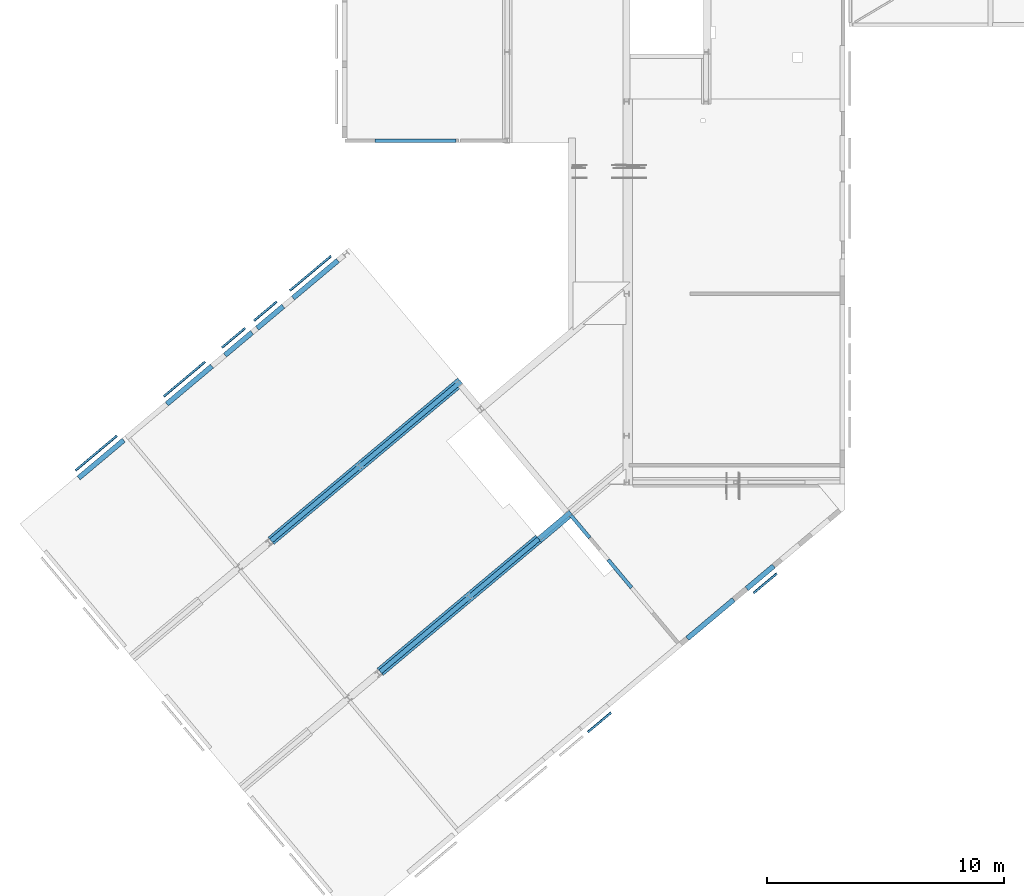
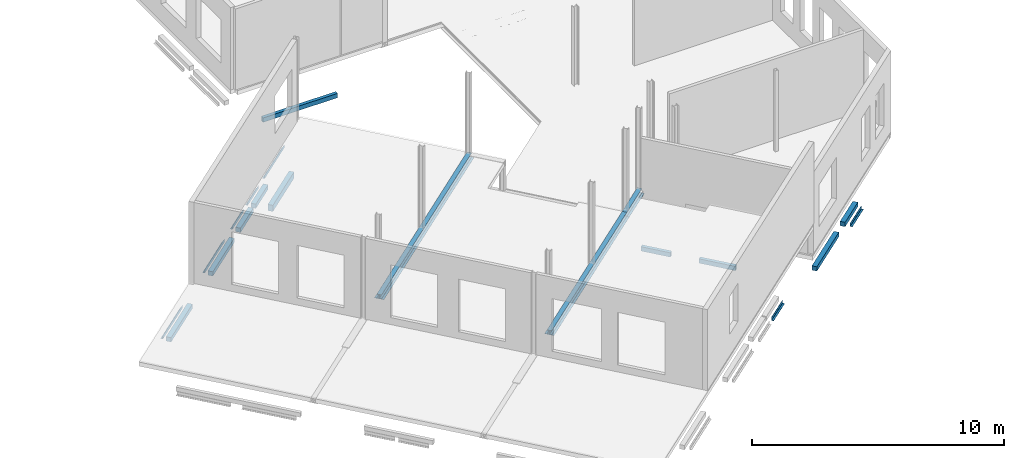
# One storey, part 5 of 16: 21 beams.
"""IFC2X3 building model written with IfcOpenShell, lengths in millimetres."""

from ifc_helpers import new_model, entity, si_unit, converted_unit, derived_unit, direction, frame, frame_2d, origin, origin_2d_with_axis, place, context, subcontext, project, spatial, polyline, circle_curve, parameter, trimmed, segment, composite_curve, rectangle, i_section, outline, extrude, source, transform, mapped, material, material_list, type_object, type_shapes, element, save


model = new_model("IFC2X3")

# Units and contexts
model_context = context("Model", 3, precision=0.01, world=origin(), true_north=direction((6.12303176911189e-17, 1.0)))
body_context = subcontext(model_context, "Body", "Model", "MODEL_VIEW")
ifc_project = project(units=[si_unit("LENGTHUNIT", "METRE", prefix="MILLI"), si_unit("AREAUNIT", "SQUARE_METRE"), si_unit("VOLUMEUNIT", "CUBIC_METRE"), converted_unit("PLANEANGLEUNIT", "DEGREE", entity("IfcRatioMeasure", 0.0174532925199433), si_unit("PLANEANGLEUNIT", "RADIAN"), dimensions=[0, 0, 0, 0, 0, 0, 0]), si_unit("MASSUNIT", "GRAM", prefix="KILO"), derived_unit("MASSDENSITYUNIT", [(si_unit("MASSUNIT", "GRAM", prefix="KILO"), 1), (si_unit("LENGTHUNIT", "METRE"), -3)]), derived_unit("MOMENTOFINERTIAUNIT", [(si_unit("LENGTHUNIT", "METRE"), 4)]), si_unit("TIMEUNIT", "SECOND"), si_unit("FREQUENCYUNIT", "HERTZ"), si_unit("THERMODYNAMICTEMPERATUREUNIT", "DEGREE_CELSIUS"), derived_unit("THERMALTRANSMITTANCEUNIT", [(si_unit("MASSUNIT", "GRAM", prefix="KILO"), 1), (si_unit("THERMODYNAMICTEMPERATUREUNIT", "KELVIN"), -1), (si_unit("TIMEUNIT", "SECOND"), -3)]), derived_unit("VOLUMETRICFLOWRATEUNIT", [(si_unit("LENGTHUNIT", "METRE"), 3), (si_unit("TIMEUNIT", "SECOND"), -1)]), si_unit("ELECTRICCURRENTUNIT", "AMPERE"), si_unit("ELECTRICVOLTAGEUNIT", "VOLT"), si_unit("POWERUNIT", "WATT"), si_unit("FORCEUNIT", "NEWTON", prefix="KILO"), si_unit("ILLUMINANCEUNIT", "LUX"), si_unit("LUMINOUSFLUXUNIT", "LUMEN"), si_unit("LUMINOUSINTENSITYUNIT", "CANDELA"), derived_unit("USERDEFINED", [(si_unit("MASSUNIT", "GRAM", prefix="KILO"), -1), (si_unit("LENGTHUNIT", "METRE"), -2), (si_unit("TIMEUNIT", "SECOND"), 3), (si_unit("LUMINOUSFLUXUNIT", "LUMEN"), 1)]), derived_unit("LINEARVELOCITYUNIT", [(si_unit("LENGTHUNIT", "METRE"), 1), (si_unit("TIMEUNIT", "SECOND"), -1)]), si_unit("PRESSUREUNIT", "PASCAL"), derived_unit("USERDEFINED", [(si_unit("LENGTHUNIT", "METRE"), -2), (si_unit("MASSUNIT", "GRAM", prefix="KILO"), 1), (si_unit("TIMEUNIT", "SECOND"), -2)]), derived_unit("LINEARFORCEUNIT", [(si_unit("MASSUNIT", "GRAM", prefix="KILO"), 1), (si_unit("LENGTHUNIT", "METRE"), 1), (si_unit("TIMEUNIT", "SECOND"), -2), (si_unit("LENGTHUNIT", "METRE"), -1)]), derived_unit("PLANARFORCEUNIT", [(si_unit("MASSUNIT", "GRAM", prefix="KILO"), 1), (si_unit("LENGTHUNIT", "METRE"), 1), (si_unit("TIMEUNIT", "SECOND"), -2), (si_unit("LENGTHUNIT", "METRE"), -2)])], contexts=[model_context])

# Site, building, storey
site_placement = place(None, origin())
site = spatial("IfcSite", under=ifc_project, at=site_placement, Name="Default", CompositionType="ELEMENT")
building_placement = place(site_placement, origin())
building = spatial("IfcBuilding", under=site, at=building_placement, CompositionType="ELEMENT")
storey_placement = place(building_placement, frame((0.0, 0.0, 3500.0)))
storey = spatial("IfcBuildingStorey", under=building, at=storey_placement, Name="01 eerste verdieping", CompositionType="ELEMENT", Elevation=3500.00000000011)

# Beams
ifc_material_1 = material(Name="00_Staal_generiek")
beam_type_1 = type_object("IfcBeamType", Name="BERSnl_28_SF_LIB_balk hoeklijn ongelijk_gen_ISR:balk gen l150x100x10", PredefinedType="BEAM")
beam_1_placement = place(storey_placement, frame((24062.2480560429, -8685.42244979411, 890.0), z_axis=(0.0, 0.0, 1.0), x_axis=(0.766044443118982, 0.642787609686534, 0.0)))
element("IfcBeam", 1, at=beam_1_placement, inside=storey, type_object=beam_type_1, material=ifc_material_1, Name="BERSnl_28_SF_LIB_balk hoeklijn ongelijk_gen_ISR:balk gen l150x100x10", ObjectType="BERSnl_28_SF_LIB_balk hoeklijn ongelijk_gen_ISR:balk gen l150x100x10", context=body_context, shape_type="SweptSolid", body=[
    extrude(outline(composite_curve([segment(polyline([(50.4444444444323, -62.2222222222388), (54.4444444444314, -62.2222222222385)]), True, "CONTINUOUS"), segment(polyline([(54.4444444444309, -62.2222222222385), (54.4444444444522, 37.7777777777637)]), True, "CONTINUOUS"), segment(polyline([(54.4444444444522, 37.7777777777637), (-95.5555555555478, 37.7777777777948)]), True, "CONTINUOUS"), segment(polyline([(-95.5555555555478, 37.7777777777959), (-95.5555555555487, 33.7777777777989)]), True, "CONTINUOUS"), segment(trimmed(circle_curve(frame_2d((-89.5555555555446, 33.7777777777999), x_axis=(-1.0, 0.0)), 6.00000000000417), [parameter(0.0)], [parameter(89.9999999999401)], True, "PARAMETER"), True, "CONTINUOUS"), segment(polyline([(-89.5555555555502, 27.7777777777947), (32.4444444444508, 27.7777777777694)]), True, "CONTINUOUS"), segment(trimmed(circle_curve(frame_2d((32.4444444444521, 15.7777777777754), x_axis=(0.0, 1.0)), 11.9999999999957), [parameter(269.99999999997)], [parameter(0.0)], True, "PARAMETER"), False, "CONTINUOUS"), segment(polyline([(44.4444444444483, 15.7777777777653), (44.4444444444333, -56.2222222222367)]), True, "CONTINUOUS"), segment(trimmed(circle_curve(frame_2d((50.4444444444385, -56.2222222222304), x_axis=(-1.0, 0.0)), 6.00000000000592), [parameter(0.0)], [parameter(89.9999999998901)], True, "PARAMETER"), True, "CONTINUOUS")], self_intersect=False)), frame((-138.069294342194, -14.3777777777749, -95.5555555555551), z_axis=(1.0, 0.0, 0.0), x_axis=(0.0, 0.0, -1.0)), (0.0, 0.0, 1.0), 1286.0),
])
beam_2_placement = place(storey_placement, frame((2592.23735380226, 2424.27051120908, 890.0), z_axis=(0.0, 0.0, 1.0), x_axis=(0.766044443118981, 0.642787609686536, 0.0)))
element("IfcBeam", 2, at=beam_2_placement, inside=storey, type_object=beam_type_1, material=ifc_material_1, Name="BERSnl_28_SF_LIB_balk hoeklijn ongelijk_gen_ISR:balk gen l150x100x10", ObjectType="BERSnl_28_SF_LIB_balk hoeklijn ongelijk_gen_ISR:balk gen l150x100x10", context=body_context, shape_type="SweptSolid", body=[
    extrude(outline(composite_curve([segment(polyline([(-95.5555555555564, -37.7777777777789), (54.4444444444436, -37.777777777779)]), True, "CONTINUOUS"), segment(polyline([(54.4444444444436, -37.777777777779), (54.4444444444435, 62.2222222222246)]), True, "CONTINUOUS"), segment(polyline([(54.444444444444, 62.2222222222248), (50.4444444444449, 62.2222222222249)]), True, "CONTINUOUS"), segment(trimmed(circle_curve(frame_2d((50.4444444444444, 56.2222222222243), x_axis=(0.0, 1.0)), 6.00000000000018), [parameter(0.0)], [parameter(90.0000000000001)], True, "PARAMETER"), True, "CONTINUOUS"), segment(polyline([(44.4444444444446, 56.2222222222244), (44.4444444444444, -15.777777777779)]), True, "CONTINUOUS"), segment(trimmed(circle_curve(frame_2d((32.4444444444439, -15.7777777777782), x_axis=(1.0, 0.0)), 12.0000000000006), [parameter(270.000000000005)], [parameter(0.0)], True, "PARAMETER"), False, "CONTINUOUS"), segment(polyline([(32.4444444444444, -27.7777777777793), (-89.5555555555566, -27.7777777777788)]), True, "CONTINUOUS"), segment(trimmed(circle_curve(frame_2d((-89.5555555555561, -33.7777777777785), x_axis=(0.0, 1.0)), 5.99999999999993), [parameter(0.0)], [parameter(90.0000000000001)], True, "PARAMETER"), True, "CONTINUOUS"), segment(polyline([(-95.5555555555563, -33.7777777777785), (-95.5555555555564, -37.7777777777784)]), True, "CONTINUOUS")], self_intersect=False)), frame((-302.060067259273, 14.3777777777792, -95.5555555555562), z_axis=(1.0, 0.0, 0.0), x_axis=(0.0, 0.0, -1.0)), (0.0, 0.0, 1.0), 2283.72116295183),
])
beam_3_placement = place(storey_placement, frame((6367.3043694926, 5591.92785174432, 890.0), z_axis=(0.0, 0.0, 1.0), x_axis=(0.766044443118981, 0.642787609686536, 0.0)))
element("IfcBeam", 3, at=beam_3_placement, inside=storey, type_object=beam_type_1, material=ifc_material_1, Name="BERSnl_28_SF_LIB_balk hoeklijn ongelijk_gen_ISR:balk gen l150x100x10", ObjectType="BERSnl_28_SF_LIB_balk hoeklijn ongelijk_gen_ISR:balk gen l150x100x10", context=body_context, shape_type="SweptSolid", body=[
    extrude(outline(composite_curve([segment(polyline([(-95.5555555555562, -37.7777777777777), (54.4444444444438, -37.7777777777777)]), True, "CONTINUOUS"), segment(polyline([(54.4444444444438, -37.7777777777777), (54.4444444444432, 62.222222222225)]), True, "CONTINUOUS"), segment(polyline([(54.4444444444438, 62.2222222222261), (50.4444444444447, 62.222222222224)]), True, "CONTINUOUS"), segment(trimmed(circle_curve(frame_2d((50.4444444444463, 56.2222222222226), x_axis=(0.0, 1.0)), 6.00000000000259), [parameter(0.0)], [parameter(89.9999999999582)], True, "PARAMETER"), True, "CONTINUOUS"), segment(polyline([(44.4444444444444, 56.2222222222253), (44.4444444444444, -15.7777777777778)]), True, "CONTINUOUS"), segment(trimmed(circle_curve(frame_2d((32.444444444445, -15.7777777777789), x_axis=(1.0, 0.0)), 11.9999999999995), [parameter(269.999999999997)], [parameter(0.0)], True, "PARAMETER"), False, "CONTINUOUS"), segment(polyline([(32.4444444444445, -27.7777777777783), (-89.5555555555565, -27.7777777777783)]), True, "CONTINUOUS"), segment(trimmed(circle_curve(frame_2d((-89.5555555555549, -33.7777777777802), x_axis=(0.0, 1.0)), 6.00000000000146), [parameter(0.0)], [parameter(89.9999999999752)], True, "PARAMETER"), True, "CONTINUOUS"), segment(polyline([(-95.5555555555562, -33.7777777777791), (-95.5555555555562, -37.7777777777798)]), True, "CONTINUOUS")], self_intersect=False)), frame((-370.06006725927, 14.3777777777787, -95.5555555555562), z_axis=(1.0, 0.0, 0.0), x_axis=(0.0, 0.0, -1.0)), (0.0, 0.0, 1.0), 2286.0),
])
beam_4_placement = place(storey_placement, frame((8905.04684868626, 7721.34663005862, 890.0), z_axis=(0.0, 0.0, 1.0), x_axis=(0.766044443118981, 0.642787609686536, 0.0)))
element("IfcBeam", 4, at=beam_4_placement, inside=storey, type_object=beam_type_1, material=ifc_material_1, Name="BERSnl_28_SF_LIB_balk hoeklijn ongelijk_gen_ISR:balk gen l150x100x10", ObjectType="BERSnl_28_SF_LIB_balk hoeklijn ongelijk_gen_ISR:balk gen l150x100x10", context=body_context, shape_type="SweptSolid", body=[
    extrude(outline(composite_curve([segment(polyline([(-95.5555555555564, -37.7777777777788), (54.4444444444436, -37.7777777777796)]), True, "CONTINUOUS"), segment(polyline([(54.4444444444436, -37.7777777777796), (54.4444444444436, 62.2222222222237)]), True, "CONTINUOUS"), segment(polyline([(54.4444444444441, 62.2222222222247), (50.444444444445, 62.2222222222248)]), True, "CONTINUOUS"), segment(trimmed(circle_curve(frame_2d((50.4444444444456, 56.2222222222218), x_axis=(0.0, 1.0)), 6.00000000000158), [parameter(0.0)], [parameter(89.9999999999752)], True, "PARAMETER"), True, "CONTINUOUS"), segment(polyline([(44.4444444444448, 56.222222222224), (44.4444444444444, -15.7777777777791)]), True, "CONTINUOUS"), segment(trimmed(circle_curve(frame_2d((32.4444444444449, -15.7777777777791), x_axis=(1.0, 0.0)), 11.9999999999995), [parameter(269.999999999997)], [parameter(0.0)], True, "PARAMETER"), False, "CONTINUOUS"), segment(polyline([(32.4444444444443, -27.7777777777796), (-89.5555555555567, -27.77777777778)]), True, "CONTINUOUS"), segment(trimmed(circle_curve(frame_2d((-89.5555555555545, -33.7777777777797), x_axis=(0.0, 1.0)), 6.00000000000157), [parameter(0.0)], [parameter(89.99999999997)], True, "PARAMETER"), True, "CONTINUOUS"), segment(polyline([(-95.5555555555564, -33.7777777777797), (-95.5555555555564, -37.7777777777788)]), True, "CONTINUOUS")], self_intersect=False)), frame((-472.84759804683, 14.3777777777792, -95.5555555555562), z_axis=(1.0, 0.0, 0.0), x_axis=(0.0, 0.0, -1.0)), (0.0, 0.0, 1.0), 1285.42920471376),
])
beam_5_placement = place(storey_placement, frame((10253.2850685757, 8852.65282310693, 890.0), z_axis=(0.0, 0.0, 1.0), x_axis=(0.766044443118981, 0.642787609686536, 0.0)))
element("IfcBeam", 5, at=beam_5_placement, inside=storey, type_object=beam_type_1, material=ifc_material_1, Name="BERSnl_28_SF_LIB_balk hoeklijn ongelijk_gen_ISR:balk gen l150x100x10", ObjectType="BERSnl_28_SF_LIB_balk hoeklijn ongelijk_gen_ISR:balk gen l150x100x10", context=body_context, shape_type="SweptSolid", body=[
    extrude(outline(composite_curve([segment(polyline([(-95.5555555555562, -37.7777777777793), (54.4444444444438, -37.7777777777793)]), True, "CONTINUOUS"), segment(polyline([(54.4444444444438, -37.7777777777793), (54.4444444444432, 62.222222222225)]), True, "CONTINUOUS"), segment(polyline([(54.4444444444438, 62.222222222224), (50.4444444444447, 62.222222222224)]), True, "CONTINUOUS"), segment(trimmed(circle_curve(frame_2d((50.4444444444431, 56.2222222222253), x_axis=(0.0, 1.0)), 5.99999999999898), [parameter(0.0)], [parameter(90.0000000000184)], True, "PARAMETER"), True, "CONTINUOUS"), segment(polyline([(44.4444444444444, 56.2222222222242), (44.4444444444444, -15.7777777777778)]), True, "CONTINUOUS"), segment(trimmed(circle_curve(frame_2d((32.4444444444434, -15.7777777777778), x_axis=(1.0, 0.0)), 12.0000000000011), [parameter(270.000000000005)], [parameter(0.0)], True, "PARAMETER"), False, "CONTINUOUS"), segment(polyline([(32.4444444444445, -27.7777777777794), (-89.5555555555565, -27.7777777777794)]), True, "CONTINUOUS"), segment(trimmed(circle_curve(frame_2d((-89.5555555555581, -33.7777777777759), x_axis=(0.0, 1.0)), 5.99999999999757), [parameter(0.0)], [parameter(90.000000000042)], True, "PARAMETER"), True, "CONTINUOUS"), segment(polyline([(-95.5555555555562, -33.777777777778), (-95.5555555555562, -37.7777777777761)]), True, "CONTINUOUS")], self_intersect=False)), frame((-462.847598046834, 14.3777777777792, -95.5555555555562), z_axis=(1.0, 0.0, 0.0), x_axis=(0.0, 0.0, -1.0)), (0.0, 0.0, 1.0), 1252.70376697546),
])
beam_6_placement = place(storey_placement, frame((31503.6037765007, -2441.38360929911, -560.0), z_axis=(0.0, 0.0, 1.0), x_axis=(0.766044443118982, 0.642787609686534, 0.0)))
element("IfcBeam", 6, at=beam_6_placement, inside=storey, type_object=beam_type_1, material=ifc_material_1, Name="BERSnl_28_SF_LIB_balk hoeklijn ongelijk_gen_ISR:balk gen l150x100x10", ObjectType="BERSnl_28_SF_LIB_balk hoeklijn ongelijk_gen_ISR:balk gen l150x100x10", context=body_context, shape_type="SweptSolid", body=[
    extrude(outline(composite_curve([segment(polyline([(50.4444444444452, -62.2222222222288), (54.4444444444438, -62.2222222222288)]), True, "CONTINUOUS"), segment(polyline([(54.4444444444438, -62.2222222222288), (54.4444444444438, 37.7777777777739)]), True, "CONTINUOUS"), segment(polyline([(54.4444444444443, 37.7777777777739), (-95.5555555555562, 37.7777777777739)]), True, "CONTINUOUS"), segment(polyline([(-95.5555555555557, 37.7777777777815), (-95.5555555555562, 33.7777777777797)]), True, "CONTINUOUS"), segment(trimmed(circle_curve(frame_2d((-89.5555555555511, 33.7777777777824), x_axis=(-1.0, 0.0)), 6.00000000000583), [parameter(0.0)], [parameter(89.9999999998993)], True, "PARAMETER"), True, "CONTINUOUS"), segment(polyline([(-89.555555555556, 27.7777777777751), (32.4444444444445, 27.7777777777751)]), True, "CONTINUOUS"), segment(trimmed(circle_curve(frame_2d((32.4444444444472, 15.7777777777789), x_axis=(0.0, 1.0)), 11.9999999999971), [parameter(269.999999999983)], [parameter(0.0)], True, "PARAMETER"), False, "CONTINUOUS"), segment(polyline([(44.444444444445, 15.7777777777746), (44.4444444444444, -56.2222222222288)]), True, "CONTINUOUS"), segment(trimmed(circle_curve(frame_2d((50.4444444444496, -56.2222222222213), x_axis=(-1.0, 0.0)), 6.00000000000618), [parameter(0.0)], [parameter(89.9999999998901)], True, "PARAMETER"), True, "CONTINUOUS")], self_intersect=False)), frame((-714.869476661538, -14.377777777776, -95.5555555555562), z_axis=(1.0, 0.0, 0.0), x_axis=(0.0, 0.0, -1.0)), (0.0, 0.0, 1.0), 1286.00000000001),
])
beam_7_placement = place(storey_placement, frame((12030.5081766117, 10343.9200775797, 890.0), z_axis=(0.0, 0.0, 1.0), x_axis=(0.766044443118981, 0.642787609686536, 0.0)))
element("IfcBeam", 7, at=beam_7_placement, inside=storey, type_object=beam_type_1, material=ifc_material_1, Name="BERSnl_28_SF_LIB_balk hoeklijn ongelijk_gen_ISR:balk gen l150x100x10", ObjectType="BERSnl_28_SF_LIB_balk hoeklijn ongelijk_gen_ISR:balk gen l150x100x10", context=body_context, shape_type="SweptSolid", body=[
    extrude(outline(composite_curve([segment(polyline([(-95.5555555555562, -37.7777777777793), (54.4444444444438, -37.7777777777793)]), True, "CONTINUOUS"), segment(polyline([(54.4444444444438, -37.7777777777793), (54.4444444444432, 62.2222222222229)]), True, "CONTINUOUS"), segment(polyline([(54.4444444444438, 62.2222222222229), (50.4444444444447, 62.2222222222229)]), True, "CONTINUOUS"), segment(trimmed(circle_curve(frame_2d((50.4444444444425, 56.2222222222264), x_axis=(0.0, 1.0)), 5.99999999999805), [parameter(0.0)], [parameter(90.0000000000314)], True, "PARAMETER"), True, "CONTINUOUS"), segment(polyline([(44.4444444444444, 56.2222222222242), (44.4444444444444, -15.7777777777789)]), True, "CONTINUOUS"), segment(trimmed(circle_curve(frame_2d((32.4444444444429, -15.7777777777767), x_axis=(1.0, 0.0)), 12.000000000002), [parameter(270.000000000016)], [parameter(0.0)], True, "PARAMETER"), False, "CONTINUOUS"), segment(polyline([(32.4444444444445, -27.7777777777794), (-89.5555555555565, -27.7777777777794)]), True, "CONTINUOUS"), segment(trimmed(circle_curve(frame_2d((-89.5555555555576, -33.777777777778), x_axis=(0.0, 1.0)), 5.99999999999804), [parameter(0.0)], [parameter(90.0000000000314)], True, "PARAMETER"), True, "CONTINUOUS"), segment(polyline([(-95.5555555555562, -33.7777777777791), (-95.5555555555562, -37.7777777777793)]), True, "CONTINUOUS")], self_intersect=False)), frame((-804.467001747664, 14.3777777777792, -95.5555555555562), z_axis=(1.0, 0.0, 0.0), x_axis=(0.0, 0.0, -1.0)), (0.0, 0.0, 1.0), 2269.61940370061),
])
ifc_material_2 = material(Name="f2_beton prefab")
beam_type_2 = type_object("IfcBeamType", Name="BERSnl_28_SF_LIB_balk vierkant prefab_gen_ISR:balk vierkant gen 150x210", PredefinedType="JOIST")
beam_8_placement = place(storey_placement, frame((25581.2680971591, -2405.75298023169, -923.0), z_axis=(0.0, 0.0, 1.0), x_axis=(-0.642787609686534, 0.766044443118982, 0.0)))
element("IfcBeam", 8, at=beam_8_placement, inside=storey, type_object=beam_type_2, material=ifc_material_2, Name="BERSnl_28_SF_LIB_balk vierkant prefab_gen_ISR:balk vierkant gen 150x210", ObjectType="BERSnl_28_SF_LIB_balk vierkant prefab_gen_ISR:balk vierkant gen 150x210", context=body_context, shape_type="SweptSolid", body=[
    extrude(rectangle(XDim=210.000000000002, YDim=149.999999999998, at=frame_2d((0.0, 2.52242671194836e-12), x_axis=(1.0, 0.0))), frame((-374.764125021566, 0.0, -105.0), z_axis=(1.0, 0.0, 0.0), x_axis=(0.0, 0.0, -1.0)), (0.0, 0.0, 1.0), 1534.00000000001),
])
beam_9_placement = place(storey_placement, frame((23815.5305333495, -301.42889498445, -923.0), z_axis=(0.0, 0.0, 1.0), x_axis=(-0.642787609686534, 0.766044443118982, 0.0)))
element("IfcBeam", 9, at=beam_9_placement, inside=storey, type_object=beam_type_2, material=ifc_material_2, Name="BERSnl_28_SF_LIB_balk vierkant prefab_gen_ISR:balk vierkant gen 150x210", ObjectType="BERSnl_28_SF_LIB_balk vierkant prefab_gen_ISR:balk vierkant gen 150x210", context=body_context, shape_type="SweptSolid", body=[
    extrude(rectangle(XDim=210.000000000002, YDim=149.999999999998, at=frame_2d((0.0, 2.39452901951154e-12), x_axis=(1.0, 0.0))), frame((-374.764125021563, 0.0, -105.0), z_axis=(1.0, 0.0, 0.0), x_axis=(0.0, 0.0, -1.0)), (0.0, 0.0, 1.0), 1245.01706476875),
])
beam_10_placement = place(storey_placement, frame((16234.521326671, 16182.2966282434, -1385.0)))
element("IfcBeam", 10, at=beam_10_placement, inside=storey, type_object=beam_type_2, material=ifc_material_2, Name="BERSnl_28_SF_LIB_balk vierkant prefab_gen_ISR:balk vierkant gen 150x210", ObjectType="BERSnl_28_SF_LIB_balk vierkant prefab_gen_ISR:balk vierkant gen 150x210", context=body_context, shape_type="SweptSolid", body=[
    extrude(rectangle(XDim=210.000000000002, YDim=149.999999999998, at=frame_2d((0.0, 1.19086962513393e-11), x_axis=(1.0, 0.0))), frame((-1239.08635016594, 0.0, -105.0), z_axis=(1.0, 0.0, 0.0), x_axis=(0.0, 0.0, -1.0)), (0.0, 0.0, 1.0), 3411.61885379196),
])
beam_type_3 = type_object("IfcBeamType", Name="BERSnl_28_SF_LIB_balk vierkant prefab_gen_ISR:balk vierkant gen 214x210", PredefinedType="JOIST")
beam_11_placement = place(storey_placement, frame((30288.2751417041, -3070.41196007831, -490.0), z_axis=(0.0, 0.0, 1.0), x_axis=(0.766044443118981, 0.642787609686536, 0.0)))
element("IfcBeam", 11, at=beam_11_placement, inside=storey, type_object=beam_type_3, material=ifc_material_2, Name="BERSnl_28_SF_LIB_balk vierkant prefab_gen_ISR:balk vierkant gen 214x210", ObjectType="BERSnl_28_SF_LIB_balk vierkant prefab_gen_ISR:balk vierkant gen 214x210", context=body_context, shape_type="SweptSolid", body=[
    extrude(rectangle(XDim=210.000000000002, YDim=213.999999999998, at=frame_2d((0.0, -2.22399876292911e-12), x_axis=(1.0, 0.0))), frame((520.457900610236, 0.0, -105.0), z_axis=(1.0, 0.0, 0.0), x_axis=(0.0, 0.0, -1.0)), (0.0, 0.0, 1.0), 1486.0),
])
beam_12_placement = place(storey_placement, frame((28922.4178996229, -4216.5022681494, -490.0), z_axis=(0.0, 0.0, 1.0), x_axis=(0.766044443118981, 0.642787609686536, 0.0)))
element("IfcBeam", 12, at=beam_12_placement, inside=storey, type_object=beam_type_3, material=ifc_material_2, Name="BERSnl_28_SF_LIB_balk vierkant prefab_gen_ISR:balk vierkant gen 214x210", ObjectType="BERSnl_28_SF_LIB_balk vierkant prefab_gen_ISR:balk vierkant gen 214x210", context=body_context, shape_type="SweptSolid", body=[
    extrude(rectangle(XDim=210.000000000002, YDim=213.999999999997, at=frame_2d((0.0, -2.22399876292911e-12), x_axis=(1.0, 0.0))), frame((-970.542099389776, 0.0, -105.0), z_axis=(1.0, 0.0, 0.0), x_axis=(0.0, 0.0, -1.0)), (0.0, 0.0, 1.0), 2550.0),
])
beam_13_placement = place(storey_placement, frame((2774.34736056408, 2188.27526704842, 960.0), z_axis=(0.0, 0.0, 1.0), x_axis=(0.76604444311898, 0.642787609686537, 0.0)))
element("IfcBeam", 13, at=beam_13_placement, inside=storey, type_object=beam_type_3, material=ifc_material_2, Name="BERSnl_28_SF_LIB_balk vierkant prefab_gen_ISR:balk vierkant gen 214x210", ObjectType="BERSnl_28_SF_LIB_balk vierkant prefab_gen_ISR:balk vierkant gen 214x210", context=body_context, shape_type="SweptSolid", body=[
    extrude(rectangle(XDim=210.000000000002, YDim=213.999999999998, at=frame_2d((0.0, 1.13686837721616e-13), x_axis=(1.0, 0.0))), frame((-389.869607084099, 0.0, -105.0), z_axis=(1.0, 0.0, 0.0), x_axis=(0.0, 0.0, -1.0)), (0.0, 0.0, 1.0), 2483.34063276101),
])
beam_14_placement = place(storey_placement, frame((6549.41437625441, 5355.93260758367, 960.0), z_axis=(0.0, 0.0, 1.0), x_axis=(0.76604444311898, 0.642787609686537, 0.0)))
element("IfcBeam", 14, at=beam_14_placement, inside=storey, type_object=beam_type_3, material=ifc_material_2, Name="BERSnl_28_SF_LIB_balk vierkant prefab_gen_ISR:balk vierkant gen 214x210", ObjectType="BERSnl_28_SF_LIB_balk vierkant prefab_gen_ISR:balk vierkant gen 214x210", context=body_context, shape_type="SweptSolid", body=[
    extrude(rectangle(XDim=210.000000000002, YDim=213.999999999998, at=frame_2d((0.0, -7.60280727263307e-13), x_axis=(1.0, 0.0))), frame((-457.869607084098, 0.0, -105.0), z_axis=(1.0, 0.0, 0.0), x_axis=(0.0, 0.0, -1.0)), (0.0, 0.0, 1.0), 2486.0),
])
beam_15_placement = place(storey_placement, frame((9087.15685544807, 7485.35138589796, 960.0), z_axis=(0.0, 0.0, 1.0), x_axis=(0.76604444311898, 0.642787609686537, 0.0)))
element("IfcBeam", 15, at=beam_15_placement, inside=storey, type_object=beam_type_3, material=ifc_material_2, Name="BERSnl_28_SF_LIB_balk vierkant prefab_gen_ISR:balk vierkant gen 214x210", ObjectType="BERSnl_28_SF_LIB_balk vierkant prefab_gen_ISR:balk vierkant gen 214x210", context=body_context, shape_type="SweptSolid", body=[
    extrude(rectangle(XDim=210.000000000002, YDim=213.999999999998, at=frame_2d((0.0, -4.19220214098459e-13), x_axis=(1.0, 0.0))), frame((-560.657137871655, 0.0, -105.0), z_axis=(1.0, 0.0, 0.0), x_axis=(0.0, 0.0, -1.0)), (0.0, 0.0, 1.0), 1485.18560973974),
])
beam_16_placement = place(storey_placement, frame((10435.3950753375, 8616.65757894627, 960.0), z_axis=(0.0, 0.0, 1.0), x_axis=(0.76604444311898, 0.642787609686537, 0.0)))
element("IfcBeam", 16, at=beam_16_placement, inside=storey, type_object=beam_type_3, material=ifc_material_2, Name="BERSnl_28_SF_LIB_balk vierkant prefab_gen_ISR:balk vierkant gen 214x210", ObjectType="BERSnl_28_SF_LIB_balk vierkant prefab_gen_ISR:balk vierkant gen 214x210", context=body_context, shape_type="SweptSolid", body=[
    extrude(rectangle(XDim=210.000000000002, YDim=214.000000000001, at=origin_2d_with_axis()), frame((-550.657137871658, 0.0, -105.0), z_axis=(1.0, 0.0, 0.0), x_axis=(0.0, 0.0, -1.0)), (0.0, 0.0, 1.0), 1438.93219826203),
])
beam_type_4 = type_object("IfcBeamType", Name="BERSnl_28_SF_LIB_balk heb_gen_ISR:balk gen heb200", PredefinedType="BEAM")
beam_17_placement = place(storey_placement, frame((22258.904561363, -334.490877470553, 1800.0), z_axis=(0.0, 0.0, 1.0), x_axis=(0.766044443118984, 0.642787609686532, 0.0)))
element("IfcBeam", 17, at=beam_17_placement, inside=storey, type_object=beam_type_4, material=ifc_material_1, Name="BERSnl_28_SF_LIB_balk heb_gen_ISR:balk gen heb200", ObjectType="BERSnl_28_SF_LIB_balk heb_gen_ISR:balk gen heb200", context=body_context, shape_type="SweptSolid", body=[
    extrude(i_section(OverallWidth=200.0, OverallDepth=200.0, WebThickness=8.99999999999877, FlangeThickness=15.0000000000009, FilletRadius=18.0000000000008, at=frame_2d((1.08002495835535e-12, 8.59756710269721e-13), x_axis=(0.0, 1.0))), frame((-470.0, 0.0, -100.0), z_axis=(1.0, 0.0, 0.0), x_axis=(0.0, 0.0, -1.0)), (0.0, 0.0, 1.0), 1758.69650854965),
])
beam_type_5 = type_object("IfcBeamType", Name="BERSnl_28_SF_LIB_balk strip_gen_ISR:balk strip  gen 300x15", PredefinedType="USERDEFINED")
beam_18_placement = place(storey_placement, frame((22261.3613487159, -201.888659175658, 1592.0), z_axis=(0.0, 0.0, 1.0), x_axis=(0.766044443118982, 0.642787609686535, 0.0)))
element("IfcBeam", 18, at=beam_18_placement, inside=storey, type_object=beam_type_5, material=ifc_material_1, Name="BERSnl_28_SF_LIB_balk strip_gen_ISR:balk strip  gen 300x15", ObjectType="BERSnl_28_SF_LIB_balk strip_gen_ISR:balk strip  gen 300x15", context=body_context, shape_type="SweptSolid", body=[
    extrude(rectangle(XDim=14.9999999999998, YDim=300.000000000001, at=frame_2d((-5.41344746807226e-13, -5.6843418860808e-14), x_axis=(1.0, 0.0))), frame((-557.117071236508, -150.0, 0.0), z_axis=(1.0, 0.0, 0.0), x_axis=(0.0, 0.0, -1.0)), (0.0, 0.0, 1.0), 1758.69650854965),
])
ifc_material_3 = material(Name="<Unnamed>")
ifc_material_list_1 = material_list([ifc_material_3, ifc_material_1])
beam_type_6 = type_object("IfcBeamType", Name="BERSnl_28_SF_LIB_balk sfb_gen_ISR:balk gen heb200 400x15", PredefinedType="T_BEAM", material=ifc_material_list_1)
shared_shape_1 = source(origin(), body_context, "Body", "SweptSolid", [
    extrude(rectangle(XDim=15.0, YDim=400.0, at=frame_2d((-1.77635683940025e-13, 0.0), x_axis=(1.0, 0.0))), frame((-5023.07585306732, 0.0, -60.5000000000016), z_axis=(1.0, 0.0, 0.0), x_axis=(0.0, 0.0, -1.0)), (0.0, 0.0, 1.0), 8730.00000000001),
    extrude(outline(composite_curve([segment(polyline([(85.0, -100.0), (100.0, -100.0)]), True, "CONTINUOUS"), segment(polyline([(100.0, -100.0), (100.0, 100.0)]), True, "CONTINUOUS"), segment(polyline([(100.0, 100.0), (85.0, 100.0)]), True, "CONTINUOUS"), segment(polyline([(85.0, 100.0), (85.0, 22.4999999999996)]), True, "CONTINUOUS"), segment(trimmed(circle_curve(frame_2d((67.0, 22.4999999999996), x_axis=(1.0, 0.0)), 18.0), [parameter(270.0)], [parameter(0.0)], True, "PARAMETER"), False, "CONTINUOUS"), segment(polyline([(67.0, 4.49999999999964), (-67.0, 4.49999999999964)]), True, "CONTINUOUS"), segment(trimmed(circle_curve(frame_2d((-67.0, 22.4999999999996), x_axis=(0.0, -1.0)), 18.0), [parameter(270.0)], [parameter(0.0)], True, "PARAMETER"), False, "CONTINUOUS"), segment(polyline([(-85.0, 22.4999999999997), (-85.0, 100.0)]), True, "CONTINUOUS"), segment(polyline([(-85.0, 100.0), (-100.0, 100.0)]), True, "CONTINUOUS"), segment(polyline([(-100.0, 100.0), (-100.0, -100.0)]), True, "CONTINUOUS"), segment(polyline([(-100.0, -100.0), (-85.0, -100.0)]), True, "CONTINUOUS"), segment(polyline([(-85.0, -100.0), (-85.0, -22.5000000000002)]), True, "CONTINUOUS"), segment(trimmed(circle_curve(frame_2d((-67.0, -22.5000000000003), x_axis=(-1.0, 0.0)), 18.0), [parameter(270.0)], [parameter(0.0)], True, "PARAMETER"), False, "CONTINUOUS"), segment(polyline([(-67.0, -4.50000000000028), (67.0, -4.50000000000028)]), True, "CONTINUOUS"), segment(trimmed(circle_curve(frame_2d((67.0, -22.5000000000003), x_axis=(0.0, 1.0)), 18.0), [parameter(270.0)], [parameter(0.0)], True, "PARAMETER"), False, "CONTINUOUS"), segment(polyline([(85.0, -22.5000000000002), (85.0, -100.0)]), True, "CONTINUOUS")], self_intersect=False)), frame((-5023.07585306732, 0.0, 47.0), z_axis=(1.0, 0.0, 0.0), x_axis=(0.0, 0.0, -1.0)), (0.0, 0.0, 1.0), 8730.00000000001),
])
type_shapes(beam_type_6, [shared_shape_1])
beam_19_placement = place(storey_placement, frame((19059.205998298, -3019.37903809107, 1653.0), z_axis=(0.0, 0.0, 1.0), x_axis=(0.766044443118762, 0.642787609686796, 0.0)))
element("IfcBeam", 19, at=beam_19_placement, inside=storey, type_object=beam_type_6, Name="BERSnl_28_SF_LIB_balk sfb_gen_ISR:balk gen heb200 400x15", ObjectType="BERSnl_28_SF_LIB_balk sfb_gen_ISR:balk gen heb200 400x15", context=body_context, shape_type="MappedRepresentation", body=[
    mapped(shared_shape_1, transform((0.0, 0.0, 0.0), scale=1.0)),
])
ifc_material_list_2 = material_list([ifc_material_3, ifc_material_1])
beam_type_7 = type_object("IfcBeamType", Name="BERSnl_28_SF_LIB_balk sfb_gen_ISR:balk gen heb200 400x15", PredefinedType="T_BEAM", material=ifc_material_list_2)
shared_shape_2 = source(origin(), body_context, "Body", "SweptSolid", [
    extrude(rectangle(XDim=15.0, YDim=400.0, at=frame_2d((-2.1138646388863e-13, 0.0), x_axis=(1.0, 0.0))), frame((-4999.02982297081, 0.0, -60.5000000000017), z_axis=(1.0, 0.0, 0.0), x_axis=(0.0, 0.0, -1.0)), (0.0, 0.0, 1.0), 10464.6377807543),
    extrude(outline(composite_curve([segment(polyline([(85.0, -100.0), (100.0, -100.0)]), True, "CONTINUOUS"), segment(polyline([(100.0, -100.0), (100.0, 100.0)]), True, "CONTINUOUS"), segment(polyline([(100.0, 100.0), (85.0, 100.0)]), True, "CONTINUOUS"), segment(polyline([(85.0, 100.0), (85.0, 22.4999999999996)]), True, "CONTINUOUS"), segment(trimmed(circle_curve(frame_2d((67.0, 22.4999999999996), x_axis=(1.0, 0.0)), 18.0), [parameter(270.0)], [parameter(0.0)], True, "PARAMETER"), False, "CONTINUOUS"), segment(polyline([(67.0, 4.49999999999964), (-67.0, 4.49999999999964)]), True, "CONTINUOUS"), segment(trimmed(circle_curve(frame_2d((-67.0, 22.4999999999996), x_axis=(0.0, -1.0)), 18.0), [parameter(269.999999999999)], [parameter(0.0)], True, "PARAMETER"), False, "CONTINUOUS"), segment(polyline([(-85.0, 22.4999999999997), (-85.0, 100.0)]), True, "CONTINUOUS"), segment(polyline([(-85.0, 100.0), (-100.0, 100.0)]), True, "CONTINUOUS"), segment(polyline([(-100.0, 100.0), (-100.0, -100.0)]), True, "CONTINUOUS"), segment(polyline([(-100.0, -100.0), (-85.0, -100.0)]), True, "CONTINUOUS"), segment(polyline([(-85.0, -100.0), (-85.0, -22.5000000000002)]), True, "CONTINUOUS"), segment(trimmed(circle_curve(frame_2d((-67.0, -22.5000000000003), x_axis=(-1.0, 0.0)), 18.0), [parameter(270.0)], [parameter(0.0)], True, "PARAMETER"), False, "CONTINUOUS"), segment(polyline([(-67.0, -4.50000000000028), (67.0, -4.50000000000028)]), True, "CONTINUOUS"), segment(trimmed(circle_curve(frame_2d((67.0, -22.5000000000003), x_axis=(0.0, 1.0)), 18.0), [parameter(270.0)], [parameter(0.0)], True, "PARAMETER"), False, "CONTINUOUS"), segment(polyline([(85.0, -22.5000000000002), (85.0, -100.0)]), True, "CONTINUOUS")], self_intersect=False)), frame((-4999.02982297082, 0.0, 47.0), z_axis=(1.0, 0.0, 0.0), x_axis=(0.0, 0.0, -1.0)), (0.0, 0.0, 1.0), 10464.6504784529),
])
type_shapes(beam_type_7, [shared_shape_2])
beam_20_placement = place(storey_placement, frame((14431.135208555, 2496.14095236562, 1653.0), z_axis=(0.0, 0.0, 1.0), x_axis=(0.766044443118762, 0.642787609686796, 0.0)))
element("IfcBeam", 20, at=beam_20_placement, inside=storey, type_object=beam_type_7, Name="BERSnl_28_SF_LIB_balk sfb_gen_ISR:balk gen heb200 400x15", ObjectType="BERSnl_28_SF_LIB_balk sfb_gen_ISR:balk gen heb200 400x15", context=body_context, shape_type="MappedRepresentation", body=[
    mapped(shared_shape_2, transform((0.0, 0.0, 0.0), scale=1.0)),
])
beam_type_8 = type_object("IfcBeamType", Name="BERSnl_28_SF_LIB_balk vierkant prefab_gen_ISR:balk vierkant gen 214x300", PredefinedType="JOIST")
beam_21_placement = place(storey_placement, frame((11628.7358096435, 9617.98934897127, -400.0), z_axis=(0.0, 0.0, 1.0), x_axis=(0.76604444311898, 0.642787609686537, 0.0)))
element("IfcBeam", 21, at=beam_21_placement, inside=storey, type_object=beam_type_8, material=ifc_material_2, Name="BERSnl_28_SF_LIB_balk vierkant prefab_gen_ISR:balk vierkant gen 214x300", ObjectType="BERSnl_28_SF_LIB_balk vierkant prefab_gen_ISR:balk vierkant gen 214x300", context=body_context, shape_type="SweptSolid", body=[
    extrude(rectangle(XDim=300.000000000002, YDim=213.999999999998, at=frame_2d((0.0, -2.63611354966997e-12), x_axis=(1.0, 0.0))), frame((-129.076040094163, 0.0, -150.0), z_axis=(1.0, 0.0, 0.0), x_axis=(0.0, 0.0, -1.0)), (0.0, 0.0, 1.0), 2468.62320900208),
])

save(model, "model.ifc")
